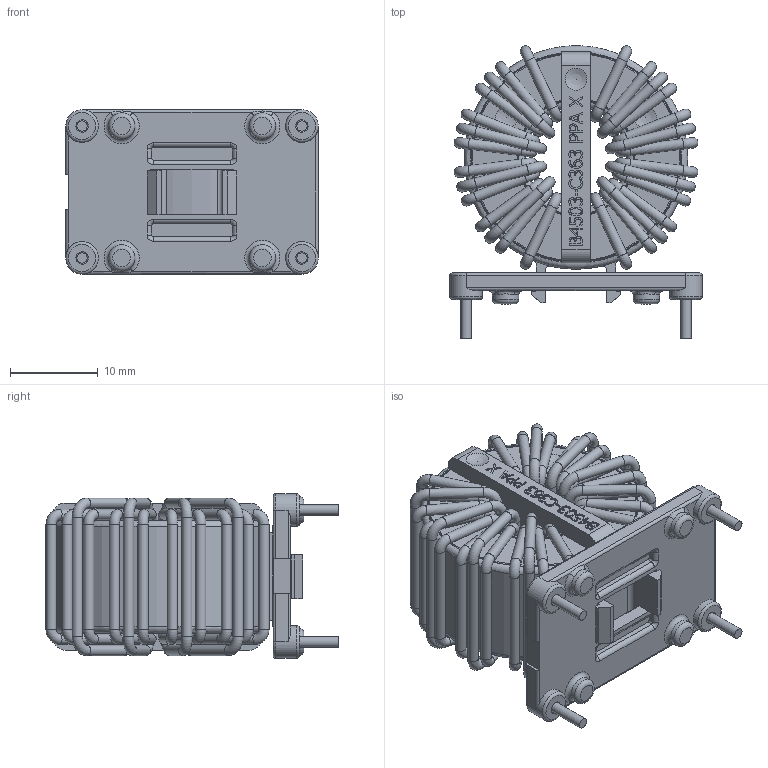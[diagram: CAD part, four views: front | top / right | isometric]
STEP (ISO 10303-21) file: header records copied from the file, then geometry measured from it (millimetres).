
FILE_DESCRIPTION(/* description */ (''),/* implementation_level */ '2;1');
FILE_NAME(/* name */ 'G:\KB-FTKon\CAD\Inventor\Bauelementnummer\6127-X016\6127-X016_Shrinkwrap_1.stp',/* time_stamp */ '2019-04-30T11:07:56+02:00',/* author */ ('de041100'),/* organization */ (''),/* preprocessor_version */ 'ST-DEVELOPER v17.2',/* originating_system */ 'Autodesk Inventor 2019',/* authorisation */ '');
FILE_SCHEMA (('AUTOMOTIVE_DESIGN { 1 0 10303 214 3 1 1 }'));
Length unit declared in the file: millimetre
Products named in the file (1): 6127-X016_Shrinkwrap_1
Bounding box: 28.7 x 33.25 x 18.7 mm (x, y, z)
Volume: 8004.9 mm3; surface area: 9560 mm2
Topology: 23 solids, 23 shells, 1416 faces, 3916 edges, 2542 vertices
Faces by surface type: plane 563, bspline 416, cylinder 231, torus 188, sphere 14, cone 4
Full cylindrical faces by diameter (mm): 1.18 x106, 1.4 x4, 3 x4, 3.7 x4, 11.6 x1, 13.2 x1, 23.8 x1, 25.4 x1
Entity records: 50755 total; most frequent: CARTESIAN_POINT 15234, ORIENTED_EDGE 7814, DIRECTION 5953, EDGE_CURVE 3907, VERTEX_POINT 2542, AXIS2_PLACEMENT_3D 1995, LINE 1963, VECTOR 1963
